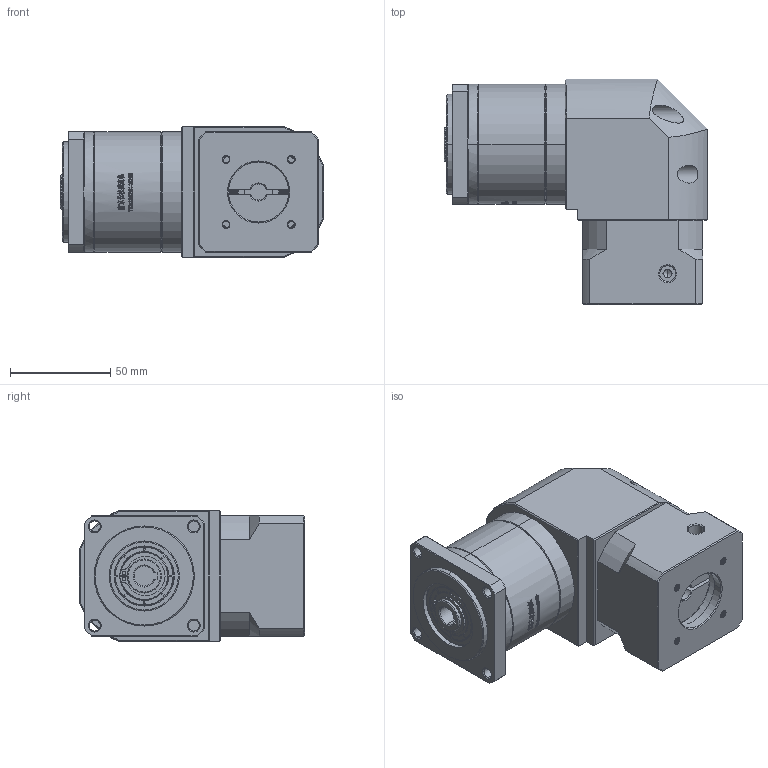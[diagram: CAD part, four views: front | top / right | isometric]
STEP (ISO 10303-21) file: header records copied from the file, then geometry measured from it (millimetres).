
FILE_DESCRIPTION (( 'STEP AP214' ), '1' );
FILE_NAME ('ZFR60-K10-L1-8-30-46-M4.STEP', '2022-04-20T08:07:40', ( '' ), ( 'Microsoft' ), 'SwSTEP 2.0', 'SolidWorks 2016', '' );
FILE_SCHEMA (( 'AUTOMOTIVE_DESIGN' ));
Length unit declared in the file: millimetre
Products named in the file (1): ZFR60-K10-L1-8-30-46-M4
Bounding box: 131.5 x 112.7 x 65 mm (x, y, z)
Volume: 537417.4 mm3; surface area: 79358.5 mm2
Topology: 5 solids, 6 shells, 2671 faces, 7307 edges, 4777 vertices
Faces by surface type: plane 1388, bspline 636, cylinder 343, cone 280, torus 24
Entity records: 164159 total; most frequent: CARTESIAN_POINT 72855, ORIENTED_EDGE 14590, DIRECTION 10299, EDGE_CURVE 7295, VERTEX_POINT 4777, VECTOR 4317, LINE 4317, AXIS2_PLACEMENT_3D 2991
